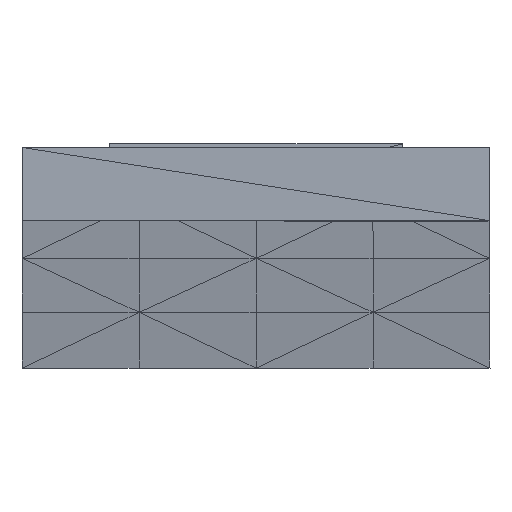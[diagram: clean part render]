
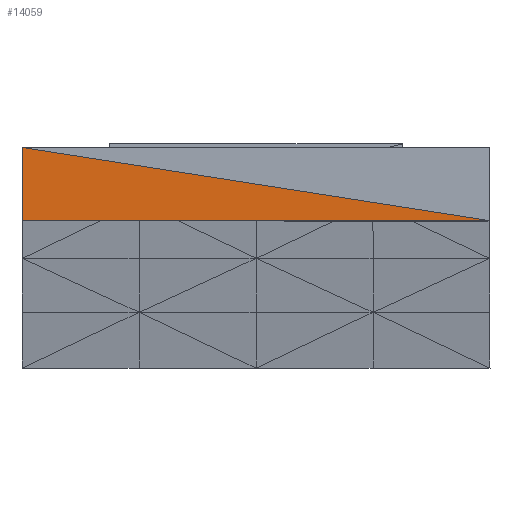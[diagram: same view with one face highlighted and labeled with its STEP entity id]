
A CAD part, top view. The second image highlights one B-rep face of the part: STEP entity #14059.
In plain terms, the highlighted planar face has unit normal (0, 0, 1).
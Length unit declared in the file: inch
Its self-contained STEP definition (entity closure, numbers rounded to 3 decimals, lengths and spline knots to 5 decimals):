
#14028=CARTESIAN_POINT('',(-0.2,0.10607,0.89002));
#14029=DIRECTION('',(0.,0.,1.));
#14030=DIRECTION('',(1.,0.,0.));
#14031=AXIS2_PLACEMENT_3D('',#14028,#14029,#14030);
#14032=PLANE('',#14031);
#14033=CARTESIAN_POINT('',(-0.2,0.04357,0.89001));
#14034=VERTEX_POINT('',#14033);
#14035=CARTESIAN_POINT('',(-0.2,0.10607,0.89002));
#14036=VERTEX_POINT('',#14035);
#14037=CARTESIAN_POINT('',(-0.2,0.04357,0.89001));
#14038=DIRECTION('',(0.,1.,0.));
#14039=VECTOR('',#14038,0.0625);
#14040=LINE('',#14037,#14039);
#14041=EDGE_CURVE('',#14034,#14036,#14040,.T.);
#14042=ORIENTED_EDGE('',*,*,#14041,.F.);
#14043=CARTESIAN_POINT('',(0.2,0.04357,0.89001));
#14044=VERTEX_POINT('',#14043);
#14045=CARTESIAN_POINT('',(-0.2,0.04357,0.89001));
#14046=DIRECTION('',(1.,0.,-0.));
#14047=VECTOR('',#14046,0.4);
#14048=LINE('',#14045,#14047);
#14049=EDGE_CURVE('',#14034,#14044,#14048,.T.);
#14050=ORIENTED_EDGE('',*,*,#14049,.T.);
#14051=CARTESIAN_POINT('',(0.2,0.04357,0.89001));
#14052=DIRECTION('',(-0.988,0.154,0.));
#14053=VECTOR('',#14052,0.40485);
#14054=LINE('',#14051,#14053);
#14055=EDGE_CURVE('',#14044,#14036,#14054,.T.);
#14056=ORIENTED_EDGE('',*,*,#14055,.T.);
#14057=EDGE_LOOP('',(#14042,#14050,#14056));
#14058=FACE_BOUND('',#14057,.T.);
#14059=ADVANCED_FACE('',(#14058),#14032,.T.);
